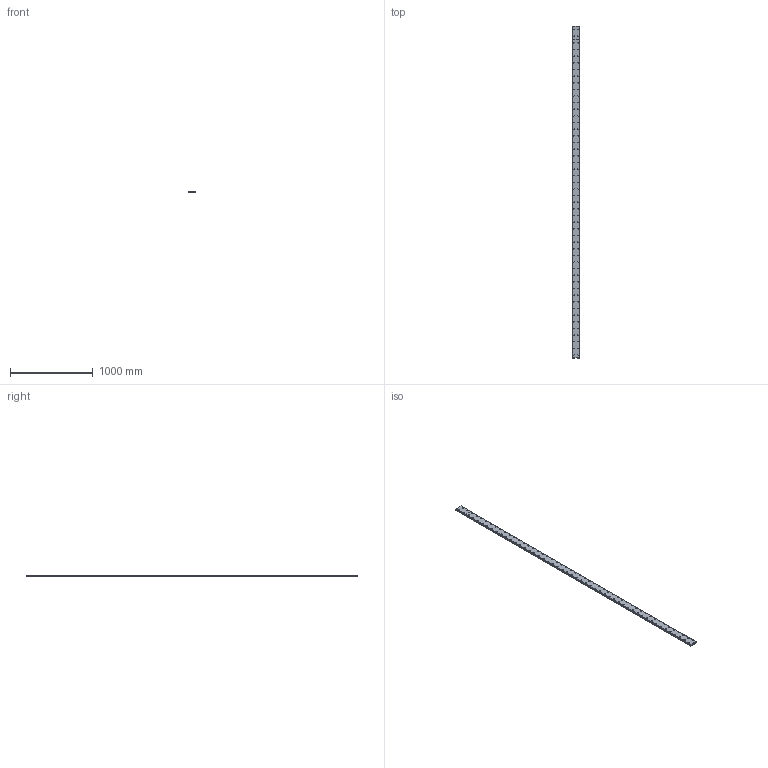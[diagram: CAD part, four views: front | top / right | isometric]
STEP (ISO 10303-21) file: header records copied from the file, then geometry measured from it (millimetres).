
FILE_DESCRIPTION(('STEP AP214'),'1');
FILE_NAME('cctmp_3A030438-B3CA-43E0-BEE6-3D3F25E8618C_2023_11_20_17_29_00_0614..stp','2023-11-20T16:29:00',('HIWIN GmbH'),('CADClick - www.CADClick.com'),'Spatial InterOp 3D',' ','unknown authorization');
FILE_SCHEMA(('AUTOMOTIVE_DESIGN'));
Length unit declared in the file: millimetre
Products named in the file (3): cc_unnamed; WER50R4000H_FILE_1; WER50R4000H_FILE
Assembly tree (2 placements, depth 2):
  cc_unnamed
    WER50R4000H_FILE_1
    WER50R4000H_FILE
Bounding box: 90 x 4000 x 24 mm (x, y, z)
Volume: 7914862.6 mm3; surface area: 1036375.7 mm2
Topology: 2 solids, 2 shells, 1106 faces, 2382 edges, 1588 vertices
Faces by surface type: cylinder 636, plane 470
Entity records: 39526 total; most frequent: DIRECTION 5872, CARTESIAN_POINT 5079, ORIENTED_EDGE 4764, EDGE_CURVE 2382, AXIS2_PLACEMENT_3D 2381, VERTEX_POINT 1588, EDGE_LOOP 1414, CIRCLE 1272
